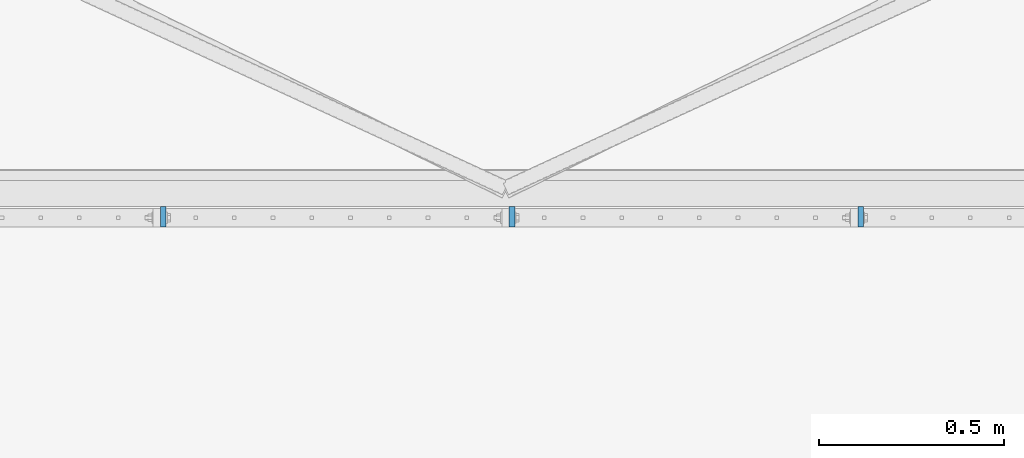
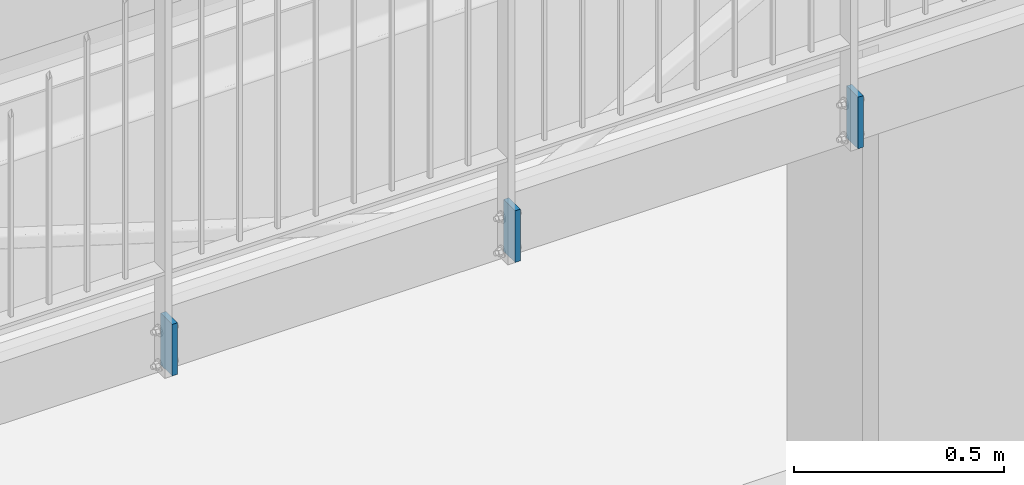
# One storey, part 62 of 78: 3 plates, 1 element without a shape of its own.
"""IFC2X3 building model written with IfcOpenShell, lengths in millimetres."""

import ifcopenshell
import ifcopenshell.guid

model = None  # the IFC model being written
_history = None  # IfcOwnerHistory: only IFC2X3 demands one
_inside = {}  # id of a spatial element -> (the spatial element, [elements in it])
_under = {}  # id of a project, library or spatial element -> (it, [spatial elements below it])
_declared = {}  # id of a project -> (the project, [libraries it declares])
_typed = {}  # id of a type object -> (the type object, [elements of that type])
_made_of = {}  # id of a material, layer set ... -> (it, [elements and type objects made of it])


def new_model(schema):
    """Start an empty IFC model of exactly this schema.

    Asked for "IFC4X3", IfcOpenShell would pick the latest addendum, in which some entities
    have other attributes; the version numbers below select the first issue.
    IFC2X3 requires an IfcOwnerHistory on every rooted entity: one is made here for all.
    """
    global model, _history
    if schema == "IFC4X3":
        model = ifcopenshell.file(schema_version=(4, 3, 0, 0))
    else:
        model = ifcopenshell.file(schema=schema)
    _inside.clear()
    _under.clear()
    _declared.clear()
    _typed.clear()
    _made_of.clear()
    _history = None
    if model.schema == "IFC2X3":
        org = make("IfcOrganization", Name="unknown")
        user = make(
            "IfcPersonAndOrganization",
            ThePerson=make("IfcPerson", FamilyName="unknown"),
            TheOrganization=org,
        )
        app = make(
            "IfcApplication",
            ApplicationDeveloper=org,
            Version="unknown",
            ApplicationFullName="unknown",
            ApplicationIdentifier="unknown",
        )
        _history = make(
            "IfcOwnerHistory",
            OwningUser=user,
            OwningApplication=app,
            ChangeAction="ADDED",
            CreationDate=0,
        )
    return model


def make(cls, **values):
    """One entity of the class cls with the attributes given. An attribute that is None is left unset."""
    return model.create_entity(
        cls, **{name: value for name, value in values.items() if value is not None}
    )


def rooted(cls, **values):
    """An entity with a GlobalId (a new one), such as an element, a storey or a relation."""
    return make(cls, GlobalId=ifcopenshell.guid.new(), OwnerHistory=_history, **values)


def si_unit(unit_type, name, prefix=None):
    """IfcSIUnit, for example si_unit("LENGTHUNIT", "METRE", prefix="MILLI")."""
    return make("IfcSIUnit", UnitType=unit_type, Prefix=prefix, Name=name)


def assignment(units):
    """IfcUnitAssignment: the units of a project."""
    return None if units is None else make("IfcUnitAssignment", Units=units)


def point(xyz):
    """IfcCartesianPoint."""
    return None if xyz is None else make("IfcCartesianPoint", Coordinates=xyz)


def direction(xyz):
    """IfcDirection."""
    return None if xyz is None else make("IfcDirection", DirectionRatios=xyz)


def frame(location, z_axis=None, x_axis=None):
    """IfcAxis2Placement3D, a coordinate frame: its origin and axes. An axis left out is left unset."""
    return make(
        "IfcAxis2Placement3D",
        Location=point(location),
        Axis=direction(z_axis),
        RefDirection=direction(x_axis),
    )


def origin_with_axes():
    """The frame at (0, 0, 0) with the z axis (0, 0, 1) and the x axis (1, 0, 0) written out."""
    return frame((0.0, 0.0, 0.0), z_axis=(0.0, 0.0, 1.0), x_axis=(1.0, 0.0, 0.0))


def place(relative_to, where):
    """IfcLocalPlacement: puts the frame where relative to a parent placement (None: the world)."""
    return make(
        "IfcLocalPlacement", PlacementRelTo=relative_to, RelativePlacement=where
    )


def context(
    kind, dimensions, precision=None, world=None, true_north=None, identifier=None
):
    """IfcGeometricRepresentationContext, for example the 3D "Model" context."""
    return make(
        "IfcGeometricRepresentationContext",
        ContextIdentifier=identifier,
        ContextType=kind,
        CoordinateSpaceDimension=dimensions,
        Precision=precision,
        WorldCoordinateSystem=world,
        TrueNorth=true_north,
    )


def subcontext(parent, identifier, kind, view, scale=None):
    """IfcGeometricRepresentationSubContext, for example "Body" below "Model"."""
    return make(
        "IfcGeometricRepresentationSubContext",
        ContextIdentifier=identifier,
        ContextType=kind,
        ParentContext=parent,
        TargetScale=scale,
        TargetView=view,
    )


def project(units=None, contexts=None):
    """IfcProject with its units and contexts."""
    return rooted(
        "IfcProject",
        Name="project",
        RepresentationContexts=contexts,
        UnitsInContext=assignment(units),
    )


def spatial(cls, under=None, at=None, **own):
    """A site, building, storey or space (cls), placed at a placement, below another one or the project."""
    s = rooted(cls, ObjectPlacement=at, **own)
    if under is not None:
        _under.setdefault(under.id(), (under, []))[1].append(s)
    return s


def polyline(points):
    """IfcPolyline through the points."""
    return make("IfcPolyline", Points=[point(p) for p in points])


def outline(outer, holes=None, kind="AREA"):
    """IfcArbitraryClosedProfileDef: a profile drawn as a closed curve; with holes, ...WithVoids."""
    if holes is None:
        return make("IfcArbitraryClosedProfileDef", ProfileType=kind, OuterCurve=outer)
    return make(
        "IfcArbitraryProfileDefWithVoids",
        ProfileType=kind,
        OuterCurve=outer,
        InnerCurves=holes,
    )


def extrude(swept, where, along, depth):
    """IfcExtrudedAreaSolid: the profile swept, set in the frame where, extruded along a direction by depth."""
    return make(
        "IfcExtrudedAreaSolid",
        SweptArea=swept,
        Position=where,
        ExtrudedDirection=direction(along),
        Depth=depth,
    )


def shape(context_of_items, identifier, shape_type, items):
    """IfcShapeRepresentation: the items that make up one representation, for example the "Body"."""
    return make(
        "IfcShapeRepresentation",
        ContextOfItems=context_of_items,
        RepresentationIdentifier=identifier,
        RepresentationType=shape_type,
        Items=items,
    )


def material(Name=None, Category=None):
    """IfcMaterial."""
    return make("IfcMaterial", Name=Name, Category=Category)


def made_of(thing, what):
    """Note that an element or type object is made of a material, layer set ...; save() writes the relation."""
    if what is not None:
        _made_of.setdefault(what.id(), (what, []))[1].append(thing)
    return thing


def type_object(cls, material=None, **own):
    """A type object (cls), such as IfcWallType, which elements share."""
    return made_of(rooted(cls, **own), material)


def element(
    cls,
    number,
    at=None,
    inside=None,
    cuts=None,
    type_object=None,
    material=None,
    context=None,
    identifier="Body",
    shape_type=None,
    held_by="IfcProductDefinitionShape",
    body=None,
    shapes=None,
    **own,
):
    """One element of the class cls, such as IfcWall. Its Tag is "e" and its number.

    at: its placement. inside: the storey or other place that contains it. cuts: it is an
    opening in that element (IfcRelVoidsElement). A single representation is given by context,
    identifier, shape_type and body (its items); several are given by shapes. held_by: the class
    of the entity that holds the representations. save() writes the other relations.
    """
    e = rooted(cls, Tag="e%d" % number, ObjectPlacement=at, **own)
    if body is not None:
        shapes = [shape(context, identifier, shape_type, body)]
    if shapes is not None:
        e.Representation = make(held_by, Representations=shapes)
    if inside is not None:
        _inside.setdefault(inside.id(), (inside, []))[1].append(e)
    if cuts is not None:
        rooted(
            "IfcRelVoidsElement", RelatingBuildingElement=cuts, RelatedOpeningElement=e
        )
    if type_object is not None:
        _typed.setdefault(type_object.id(), (type_object, []))[1].append(e)
    return made_of(e, material)


def aggregate(whole, parts):
    """IfcRelAggregates: a whole, such as a stair, and the parts it consists of."""
    return rooted("IfcRelAggregates", RelatingObject=whole, RelatedObjects=parts)


def save(model, path):
    """Write the relations noted so far, then the file.

    IfcRelAggregates (storeys below a building ...), IfcRelContainedInSpatialStructure (elements
    in a storey), IfcRelDefinesByType, IfcRelAssociatesMaterial and IfcRelDeclares: one each for
    every whole, place, type object, material and project.
    """
    for whole, parts in _under.values():
        aggregate(whole, parts)
    for where, things in _inside.values():
        rooted(
            "IfcRelContainedInSpatialStructure",
            RelatedElements=things,
            RelatingStructure=where,
        )
    for kind, things in _typed.values():
        rooted("IfcRelDefinesByType", RelatedObjects=things, RelatingType=kind)
    for what, things in _made_of.values():
        rooted("IfcRelAssociatesMaterial", RelatedObjects=things, RelatingMaterial=what)
    for by, libraries in _declared.values():
        rooted("IfcRelDeclares", RelatingContext=by, RelatedDefinitions=libraries)
    model.write(path)


model = new_model("IFC2X3")

# Units and contexts
model_context = context("Model", 3, precision=1e-05, world=origin_with_axes())
body_context = subcontext(model_context, "Body", "Model", "MODEL_VIEW")
ifc_project = project(units=[si_unit("LENGTHUNIT", "METRE", prefix="MILLI"), si_unit("AREAUNIT", "SQUARE_METRE"), si_unit("VOLUMEUNIT", "CUBIC_METRE"), si_unit("MASSUNIT", "GRAM", prefix="KILO"), si_unit("TIMEUNIT", "SECOND"), si_unit("PLANEANGLEUNIT", "RADIAN"), si_unit("SOLIDANGLEUNIT", "STERADIAN"), si_unit("THERMODYNAMICTEMPERATUREUNIT", "DEGREE_CELSIUS"), si_unit("LUMINOUSINTENSITYUNIT", "LUMEN")], contexts=[model_context])

# Site, building, storey
site_placement = place(None, origin_with_axes())
site = spatial("IfcSite", under=ifc_project, at=site_placement, Name="Site", CompositionType="ELEMENT")
building_placement = place(site_placement, origin_with_axes())
building = spatial("IfcBuilding", under=site, at=building_placement, Name="Undefined", CompositionType="ELEMENT")
storey_placement = place(building_placement, origin_with_axes())
storey = spatial("IfcBuildingStorey", under=building, at=storey_placement, Name="Undefined", CompositionType="ELEMENT", Elevation=0.0)

# Assembly, plates
assembly_placement = place(storey_placement, origin_with_axes())
assembly = element("IfcElementAssembly", 1, at=assembly_placement, inside=storey, AssemblyPlace="NOTDEFINED", PredefinedType="RIGID_FRAME")
ifc_material = material(Name="STEEL/S235JR")
plate_type = type_object("IfcPlateType", Name="PL15*150", PredefinedType="NOTDEFINED")
plate_1_placement = place(assembly_placement, frame((-19775.0, -8613.0, 159885.04), z_axis=(-1.0, 0.0, 0.0), x_axis=(0.0, -1.0, 0.0)))
plate_1 = element("IfcPlate", 2, at=plate_1_placement, type_object=plate_type, material=ifc_material, Name="PLATINE", ObjectType="PL15*150", context=body_context, shape_type="SweptSolid", body=[
    extrude(outline(polyline([(54.9999999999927, -75.0), (0.0, -75.0), (0.0, 75.0), (54.9999999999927, 75.0), (54.9999999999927, -75.0)])), frame((0.0, 0.0, -7.5), z_axis=(0.0, 0.0, 1.0), x_axis=(1.0, 0.0, 0.0)), (0.0, 0.0, 1.0), 15.0),
])
plate_2_placement = place(assembly_placement, frame((-20717.5, -8613.0, 159885.04), z_axis=(-1.0, 0.0, 0.0), x_axis=(0.0, -1.0, 0.0)))
plate_2 = element("IfcPlate", 3, at=plate_2_placement, type_object=plate_type, material=ifc_material, Name="PLATINE", ObjectType="PL15*150", context=body_context, shape_type="SweptSolid", body=[
    extrude(outline(polyline([(54.9999999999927, -75.0), (0.0, -75.0), (0.0, 75.0), (54.9999999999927, 75.0), (54.9999999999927, -75.0)])), frame((0.0, 0.0, -7.5), z_axis=(0.0, 0.0, 1.0), x_axis=(1.0, 0.0, 0.0)), (0.0, 0.0, 1.0), 15.0),
])
plate_3_placement = place(assembly_placement, frame((-21660.0, -8613.0, 159885.04), z_axis=(-1.0, 0.0, 0.0), x_axis=(0.0, -1.0, 0.0)))
plate_3 = element("IfcPlate", 4, at=plate_3_placement, type_object=plate_type, material=ifc_material, Name="PLATINE", ObjectType="PL15*150", context=body_context, shape_type="SweptSolid", body=[
    extrude(outline(polyline([(54.9999999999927, -75.0), (0.0, -75.0), (0.0, 75.0), (54.9999999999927, 75.0), (54.9999999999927, -75.0)])), frame((0.0, 0.0, -7.5), z_axis=(0.0, 0.0, 1.0), x_axis=(1.0, 0.0, 0.0)), (0.0, 0.0, 1.0), 15.0),
])
aggregate(assembly, [plate_1, plate_2, plate_3])

save(model, "model.ifc")
